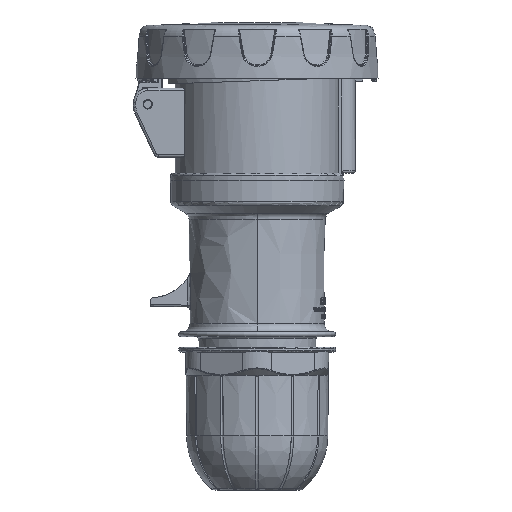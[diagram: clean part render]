
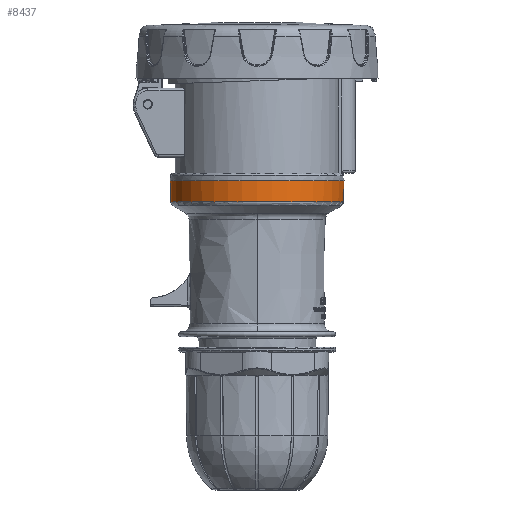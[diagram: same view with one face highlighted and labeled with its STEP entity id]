
A CAD part, left-side view. The second image highlights one B-rep face of the part: STEP entity #8437.
In plain terms, the highlighted conical face has half-angle 1 degrees and reference radius 36.5 mm.
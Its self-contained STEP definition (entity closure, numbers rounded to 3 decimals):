
#1458=ELLIPSE('',#77455,73.362,36.664);
#1460=ELLIPSE('',#77461,72.576,36.271);
#3868=FACE_BOUND('',#18730,.T.);
#3869=FACE_BOUND('',#18731,.T.);
#3870=FACE_BOUND('',#18732,.T.);
#3871=FACE_BOUND('',#18733,.T.);
#4579=CONICAL_SURFACE('',#77954,36.5,1.);
#5246=CIRCLE('',#77442,36.46);
#5249=CIRCLE('',#77446,36.346);
#5253=CIRCLE('',#77458,36.399);
#5420=CIRCLE('',#77896,36.345);
#5452=CIRCLE('',#77953,36.5);
#8437=ADVANCED_FACE('',(#3868,#3869,#3870,#3871),#4579,.T.);
#18730=EDGE_LOOP('',(#31857));
#18731=EDGE_LOOP('',(#31858));
#18732=EDGE_LOOP('',(#31859,#31860,#31861,#31862));
#18733=EDGE_LOOP('',(#31863,#31864,#31865));
#23628=B_SPLINE_CURVE_WITH_KNOTS('',3,(#112761,#112762,#112763,#112764),
 .UNSPECIFIED.,.F.,.F.,(4,4),(0.,1.),.UNSPECIFIED.);
#23632=B_SPLINE_CURVE_WITH_KNOTS('',3,(#112791,#112792,#112793,#112794,
#112795,#112796,#112797,#112798,#112799,#112800),.UNSPECIFIED.,.F.,.F.,
(4,3,3,4),(0.,0.154,0.769,1.),.UNSPECIFIED.);
#31857=ORIENTED_EDGE('',*,*,#60191,.F.);
#31858=ORIENTED_EDGE('',*,*,#60229,.F.);
#31859=ORIENTED_EDGE('',*,*,#59369,.T.);
#31860=ORIENTED_EDGE('',*,*,#59377,.T.);
#31861=ORIENTED_EDGE('',*,*,#59373,.T.);
#31862=ORIENTED_EDGE('',*,*,#59362,.F.);
#31863=ORIENTED_EDGE('',*,*,#59394,.T.);
#31864=ORIENTED_EDGE('',*,*,#59396,.T.);
#31865=ORIENTED_EDGE('',*,*,#59391,.T.);
#51737=VERTEX_POINT('',#112683);
#51738=VERTEX_POINT('',#112684);
#51744=VERTEX_POINT('',#112760);
#51747=VERTEX_POINT('',#112801);
#51756=VERTEX_POINT('',#112872);
#51758=VERTEX_POINT('',#112876);
#51760=VERTEX_POINT('',#112882);
#52251=VERTEX_POINT('',#119275);
#52280=VERTEX_POINT('',#119955);
#59362=EDGE_CURVE('',#51737,#51738,#5246,.T.);
#59369=EDGE_CURVE('',#51737,#51744,#23628,.T.);
#59373=EDGE_CURVE('',#51747,#51738,#23632,.T.);
#59377=EDGE_CURVE('',#51744,#51747,#5249,.T.);
#59391=EDGE_CURVE('',#51756,#51758,#1458,.T.);
#59394=EDGE_CURVE('',#51758,#51760,#5253,.T.);
#59396=EDGE_CURVE('',#51760,#51756,#1460,.T.);
#60191=EDGE_CURVE('',#52251,#52251,#5420,.T.);
#60229=EDGE_CURVE('',#52280,#52280,#5452,.T.);
#77442=AXIS2_PLACEMENT_3D('',#112682,#85495,#85496);
#77446=AXIS2_PLACEMENT_3D('',#112839,#85503,#85504);
#77455=AXIS2_PLACEMENT_3D('',#112877,#85528,#85529);
#77458=AXIS2_PLACEMENT_3D('',#112883,#85535,#85536);
#77461=AXIS2_PLACEMENT_3D('',#112886,#85541,#85542);
#77896=AXIS2_PLACEMENT_3D('',#119274,#86715,#86716);
#77953=AXIS2_PLACEMENT_3D('',#119954,#86829,#86830);
#77954=AXIS2_PLACEMENT_3D('',#119956,#86831,#86832);
#85495=DIRECTION('',(0.,0.,-1.));
#85496=DIRECTION('',(-1.,0.,0.));
#85503=DIRECTION('',(0.,0.,-1.));
#85504=DIRECTION('',(-1.,0.,0.));
#85528=DIRECTION('',(0.866,0.,0.5));
#85529=DIRECTION('',(-0.5,0.,0.866));
#85535=DIRECTION('',(0.,0.,-1.));
#85536=DIRECTION('',(1.,0.,0.));
#85541=DIRECTION('',(-0.866,0.,0.5));
#85542=DIRECTION('',(0.5,0.,0.866));
#86715=DIRECTION('',(0.,0.,-1.));
#86716=DIRECTION('',(1.,0.,0.));
#86829=DIRECTION('',(0.,0.,1.));
#86830=DIRECTION('',(1.,0.,0.));
#86831=DIRECTION('',(0.,0.,1.));
#86832=DIRECTION('',(1.,0.,0.));
#112682=CARTESIAN_POINT('',(0.,0.,
-2.309));
#112683=CARTESIAN_POINT('',(3.244,-36.315,-2.309));
#112684=CARTESIAN_POINT('',(-2.738,-36.357,-2.309));
#112760=CARTESIAN_POINT('',(3.245,-36.201,-8.809));
#112761=CARTESIAN_POINT('',(3.244,-36.315,-2.309));
#112762=CARTESIAN_POINT('',(3.245,-36.277,-4.475));
#112763=CARTESIAN_POINT('',(3.245,-36.239,-6.642));
#112764=CARTESIAN_POINT('',(3.245,-36.201,-8.809));
#112791=CARTESIAN_POINT('',(-2.738,-36.243,-8.809));
#112792=CARTESIAN_POINT('',(-2.738,-36.249,-8.475));
#112793=CARTESIAN_POINT('',(-2.738,-36.255,-8.142));
#112794=CARTESIAN_POINT('',(-2.738,-36.26,-7.809));
#112795=CARTESIAN_POINT('',(-2.738,-36.284,-6.476));
#112796=CARTESIAN_POINT('',(-2.738,-36.307,-5.143));
#112797=CARTESIAN_POINT('',(-2.738,-36.331,-3.809));
#112798=CARTESIAN_POINT('',(-2.738,-36.339,-3.309));
#112799=CARTESIAN_POINT('',(-2.738,-36.348,-2.809));
#112800=CARTESIAN_POINT('',(-2.738,-36.357,-2.309));
#112801=CARTESIAN_POINT('',(-2.738,-36.243,-8.809));
#112839=CARTESIAN_POINT('',(0.,0.,
-8.809));
#112872=CARTESIAN_POINT('',(6.5,-35.867,-2.8));
#112876=CARTESIAN_POINT('',(8.232,-35.456,-5.8));
#112877=CARTESIAN_POINT('',(-1.109,0.,10.379));
#112882=CARTESIAN_POINT('',(4.768,-36.085,-5.8));
#112883=CARTESIAN_POINT('',(0.,0.,-5.8));
#112886=CARTESIAN_POINT('',(1.097,0.,-12.158));
#119274=CARTESIAN_POINT('',(0.,0.,
-8.869));
#119275=CARTESIAN_POINT('',(36.345,0.,-8.869));
#119954=CARTESIAN_POINT('',(0.,0.,0.));
#119955=CARTESIAN_POINT('',(36.5,0.,0.));
#119956=CARTESIAN_POINT('',(0.,0.,
0.));
